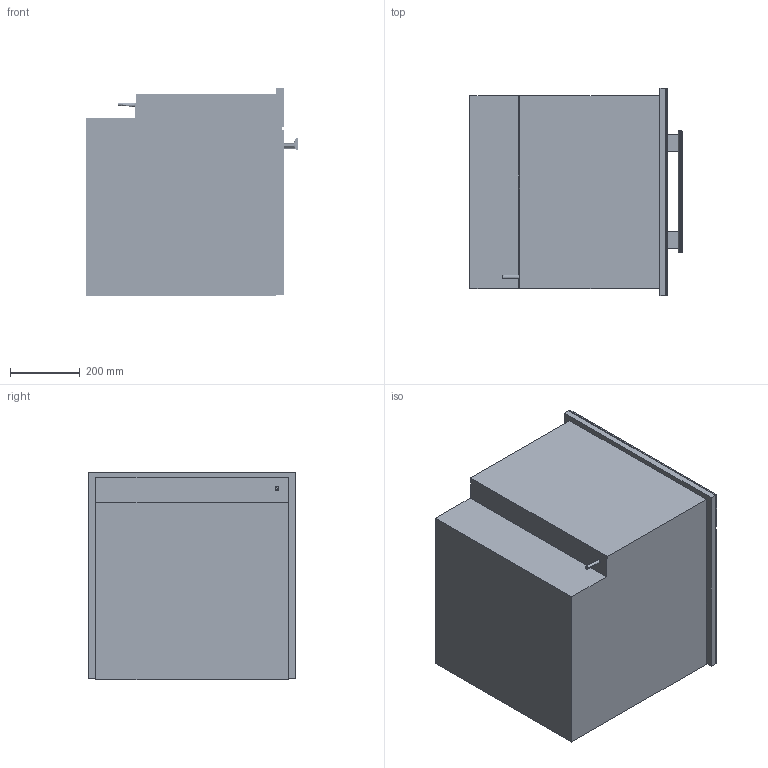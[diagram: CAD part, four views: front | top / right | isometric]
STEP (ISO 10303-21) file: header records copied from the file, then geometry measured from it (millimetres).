
FILE_DESCRIPTION(/* description */ (''),/* implementation_level */ '2;1');
FILE_NAME(/* name */ 'H6660BP_BRWS',/* time_stamp */ '2013-04-20T15:35:24+02:00',/* author */ (''),/* organization */ (''),/* preprocessor_version */ 'ST-DEVELOPER v10',/* originating_system */ '',/* authorisation */ '');
FILE_SCHEMA (('AUTOMOTIVE_DESIGN_CC2'));
Length unit declared in the file: millimetre
Products named in the file (1): 1
Bounding box: 609.48 x 594.94 x 596.31 mm (x, y, z)
Volume: 102866499 mm3; surface area: 4207081.9 mm2
Topology: 42 solids, 43 shells, 203 faces, 332 edges, 212 vertices
Faces by surface type: bspline 203
Entity records: 86712 total; most frequent: CARTESIAN_POINT 84103, ORIENTED_EDGE 652, EDGE_CURVE 328, VERTEX_POINT 212, EDGE_LOOP 207, ADVANCED_FACE 203, FACE_OUTER_BOUND 203, B_SPLINE_CURVE_WITH_KNOTS 201
